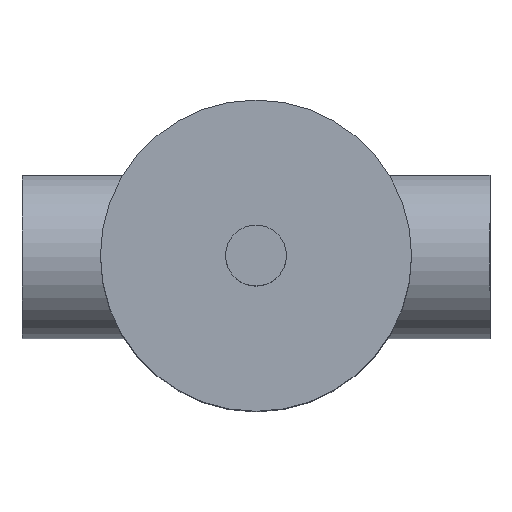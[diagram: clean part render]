
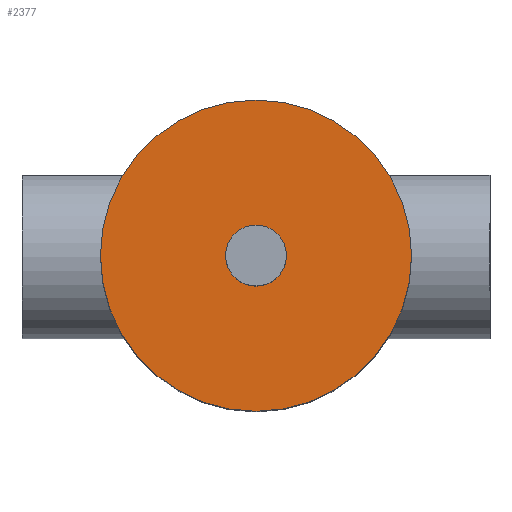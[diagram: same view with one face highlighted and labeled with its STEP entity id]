
A CAD part, top view. The second image highlights one B-rep face of the part: STEP entity #2377.
In plain terms, the highlighted planar face has unit normal (0, 0, 1).
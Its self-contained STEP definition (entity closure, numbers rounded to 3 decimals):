
#2293 = CYLINDRICAL_SURFACE('',#2294,66.5);
#2294 = AXIS2_PLACEMENT_3D('',#2295,#2296,#2297);
#2295 = CARTESIAN_POINT('',(0.,0.,182.5));
#2296 = DIRECTION('',(0.,0.,1.));
#2297 = DIRECTION('',(1.,0.,0.));
#2326 = EDGE_CURVE('',#2327,#2327,#2329,.T.);
#2327 = VERTEX_POINT('',#2328);
#2328 = CARTESIAN_POINT('',(66.5,0.,328.5));
#2329 = SURFACE_CURVE('',#2330,(#2335,#2342),.PCURVE_S1.);
#2330 = CIRCLE('',#2331,66.5);
#2331 = AXIS2_PLACEMENT_3D('',#2332,#2333,#2334);
#2332 = CARTESIAN_POINT('',(0.,0.,328.5));
#2333 = DIRECTION('',(0.,0.,1.));
#2334 = DIRECTION('',(1.,0.,0.));
#2335 = PCURVE('',#2293,#2336);
#2336 = DEFINITIONAL_REPRESENTATION('',(#2337),#2341);
#2337 = LINE('',#2338,#2339);
#2338 = CARTESIAN_POINT('',(0.,146.));
#2339 = VECTOR('',#2340,1.);
#2340 = DIRECTION('',(1.,0.));
#2341 = ( GEOMETRIC_REPRESENTATION_CONTEXT(2) 
PARAMETRIC_REPRESENTATION_CONTEXT() REPRESENTATION_CONTEXT('2D SPACE',''
  ) );
#2342 = PCURVE('',#2343,#2348);
#2343 = PLANE('',#2344);
#2344 = AXIS2_PLACEMENT_3D('',#2345,#2346,#2347);
#2345 = CARTESIAN_POINT('',(0.,0.,328.5));
#2346 = DIRECTION('',(0.,0.,1.));
#2347 = DIRECTION('',(1.,0.,0.));
#2348 = DEFINITIONAL_REPRESENTATION('',(#2349),#2353);
#2349 = CIRCLE('',#2350,66.5);
#2350 = AXIS2_PLACEMENT_2D('',#2351,#2352);
#2351 = CARTESIAN_POINT('',(0.,0.));
#2352 = DIRECTION('',(1.,0.));
#2353 = ( GEOMETRIC_REPRESENTATION_CONTEXT(2) 
PARAMETRIC_REPRESENTATION_CONTEXT() REPRESENTATION_CONTEXT('2D SPACE',''
  ) );
#2377 = ADVANCED_FACE('',(#2378,#2381),#2343,.T.);
#2378 = FACE_BOUND('',#2379,.T.);
#2379 = EDGE_LOOP('',(#2380));
#2380 = ORIENTED_EDGE('',*,*,#2326,.T.);
#2381 = FACE_BOUND('',#2382,.T.);
#2382 = EDGE_LOOP('',(#2383));
#2383 = ORIENTED_EDGE('',*,*,#2384,.F.);
#2384 = EDGE_CURVE('',#2385,#2385,#2387,.T.);
#2385 = VERTEX_POINT('',#2386);
#2386 = CARTESIAN_POINT('',(13.,0.,328.5));
#2387 = SURFACE_CURVE('',#2388,(#2393,#2400),.PCURVE_S1.);
#2388 = CIRCLE('',#2389,13.);
#2389 = AXIS2_PLACEMENT_3D('',#2390,#2391,#2392);
#2390 = CARTESIAN_POINT('',(0.,0.,328.5));
#2391 = DIRECTION('',(0.,0.,1.));
#2392 = DIRECTION('',(1.,0.,-0.));
#2393 = PCURVE('',#2343,#2394);
#2394 = DEFINITIONAL_REPRESENTATION('',(#2395),#2399);
#2395 = CIRCLE('',#2396,13.);
#2396 = AXIS2_PLACEMENT_2D('',#2397,#2398);
#2397 = CARTESIAN_POINT('',(0.,0.));
#2398 = DIRECTION('',(1.,0.));
#2399 = ( GEOMETRIC_REPRESENTATION_CONTEXT(2) 
PARAMETRIC_REPRESENTATION_CONTEXT() REPRESENTATION_CONTEXT('2D SPACE',''
  ) );
#2400 = PCURVE('',#2401,#2406);
#2401 = CYLINDRICAL_SURFACE('',#2402,13.);
#2402 = AXIS2_PLACEMENT_3D('',#2403,#2404,#2405);
#2403 = CARTESIAN_POINT('',(0.,0.,58.5));
#2404 = DIRECTION('',(0.,0.,1.));
#2405 = DIRECTION('',(1.,0.,0.));
#2406 = DEFINITIONAL_REPRESENTATION('',(#2407),#2411);
#2407 = LINE('',#2408,#2409);
#2408 = CARTESIAN_POINT('',(0.,270.));
#2409 = VECTOR('',#2410,1.);
#2410 = DIRECTION('',(1.,0.));
#2411 = ( GEOMETRIC_REPRESENTATION_CONTEXT(2) 
PARAMETRIC_REPRESENTATION_CONTEXT() REPRESENTATION_CONTEXT('2D SPACE',''
  ) );
